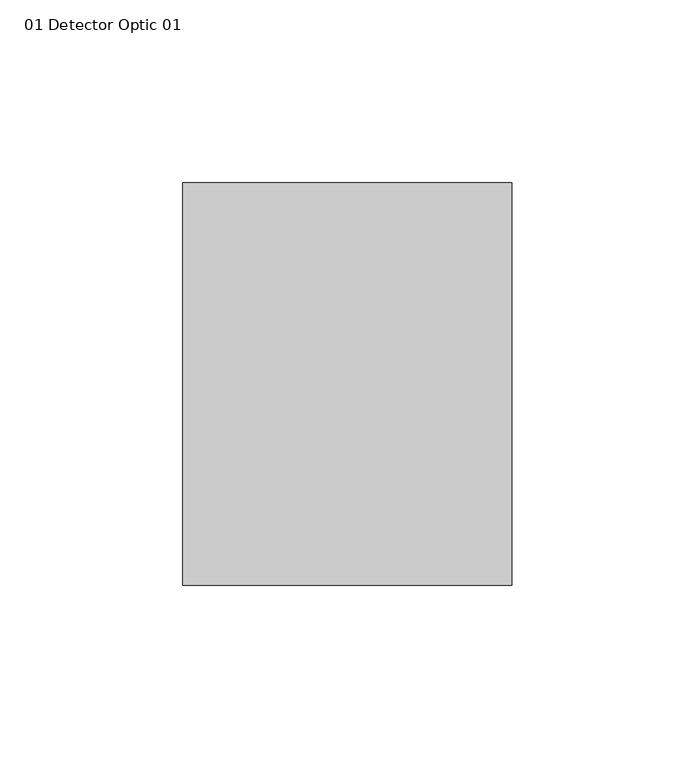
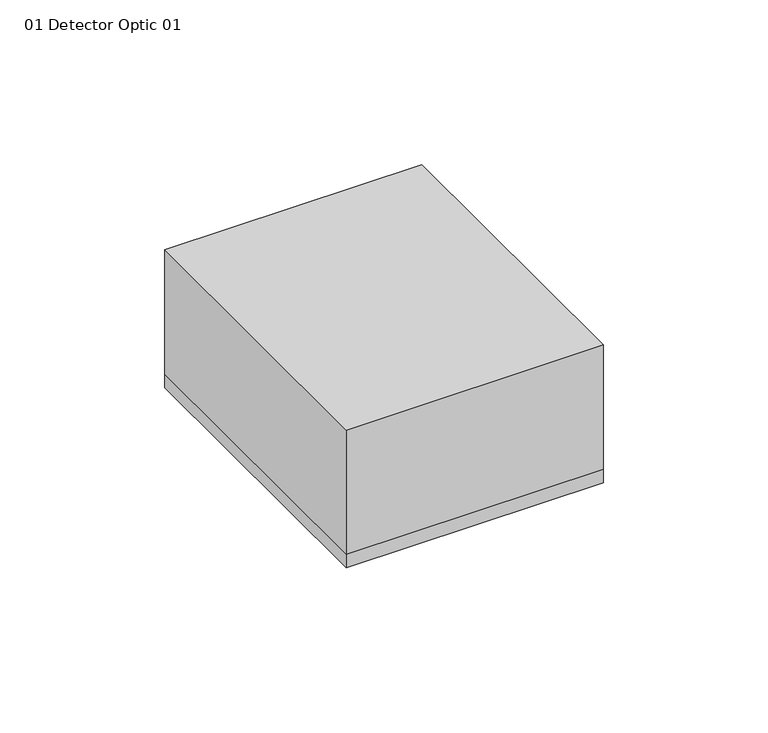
"""IFC4 building model written with IfcOpenShell, lengths in millimetres: proxy geometry, ZYR_08.05 Indicador Optic Sostre : 01 Detector Optic 01."""

from ifc_helpers import new_model, si_unit, frame, origin, place, context, project, spatial, polyline, outline, extrude, source, transform, mapped, element, save


def proxy_01_detector_optic_01_101c28d1(model_context):
    return source(origin(), model_context, "Body", "SweptSolid", [
        extrude(outline(polyline([(45.0, 55.0), (45.0, -55.0), (-45.0, -55.0), (-45.0, 55.0), (45.0, 55.0)])), frame((0.0, 0.0, -46.0), z_axis=(0.0, 0.0, 1.0), x_axis=(1.0, 0.0, 0.0)), (0.0, 0.0, 1.0), 46.0),
        extrude(outline(polyline([(45.0, 55.0), (45.0, -55.0), (-45.0, -55.0), (-45.0, 55.0), (45.0, 55.0)])), frame((0.0, 0.0, -51.0), z_axis=(0.0, 0.0, 1.0), x_axis=(1.0, 0.0, 0.0)), (0.0, 0.0, 1.0), 5.0),
    ])


if __name__ == "__main__":
    model = new_model("IFC4")
    model_context = context("Model", 3, world=origin())
    ifc_project = project(units=[si_unit("LENGTHUNIT", "METRE", prefix="MILLI")], contexts=[model_context])
    site = spatial("IfcSite", under=ifc_project)
    building = spatial("IfcBuilding", under=site)
    placement = place(None, origin())
    proxy_01_detector_optic_01_shape = proxy_01_detector_optic_01_101c28d1(model_context)
    element("IfcBuildingElementProxy", 1, Name="ZYR_08.05 Indicador Optic Sostre : 01 Detector Optic 01", ObjectType="ZYR_08.05 Indicador Optic Sostre : 01 Detector Optic 01", at=placement, inside=building, context=model_context, shape_type="MappedRepresentation", body=[
        mapped(proxy_01_detector_optic_01_shape, transform((0.0, 0.0, 0.0), x_axis=(1.0, 0.0, 0.0), y_axis=(0.0, 1.0, 0.0), z_axis=(0.0, 0.0, 1.0))),
    ])
    save(model, "model.ifc")
